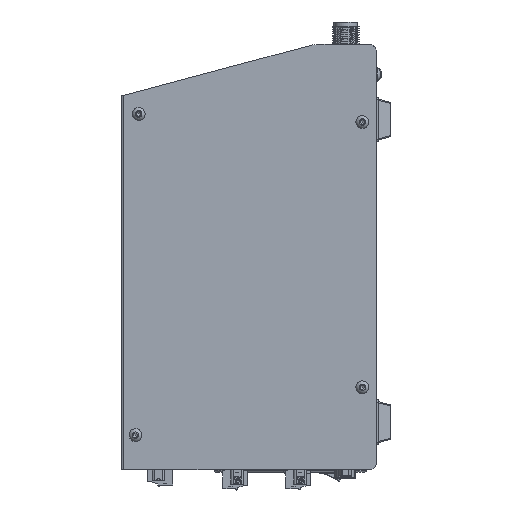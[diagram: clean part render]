
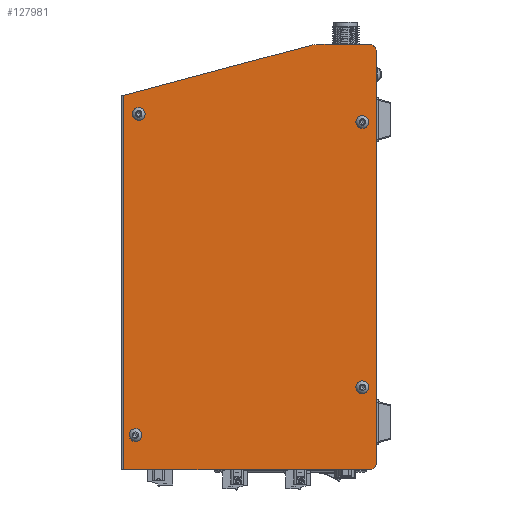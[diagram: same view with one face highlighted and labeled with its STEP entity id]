
A CAD part, left-side view. The second image highlights one B-rep face of the part: STEP entity #127981.
In plain terms, the highlighted planar face has unit normal (-1, 0, 0).
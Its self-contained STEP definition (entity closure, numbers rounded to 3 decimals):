
#91 = DIRECTION ( 'NONE',  ( -1., 0., 0. ) ) ;
#664 = CIRCLE ( 'NONE', #114162, 1.7 ) ;
#10435 = DIRECTION ( 'NONE',  ( 0., 0., 1. ) ) ;
#11234 = FACE_BOUND ( 'NONE', #155830, .T. ) ;
#11524 = AXIS2_PLACEMENT_3D ( 'NONE', #141416, #93171, #151726 ) ;
#17015 = DIRECTION ( 'NONE',  ( 0., 0., 1. ) ) ;
#19757 = AXIS2_PLACEMENT_3D ( 'NONE', #144134, #129948, #60348 ) ;
#20331 = CARTESIAN_POINT ( 'NONE',  ( -101.004, 6.25, -58.99 ) ) ;
#20758 = EDGE_CURVE ( 'NONE', #137418, #137418, #21896, .T. ) ;
#21064 = DIRECTION ( 'NONE',  ( 0., -1., 0. ) ) ;
#21896 = CIRCLE ( 'NONE', #52097, 1.7 ) ;
#22619 = EDGE_LOOP ( 'NONE', ( #38857, #124777, #120261, #48665, #147114, #99353, #107396, #66530 ) ) ;
#23182 = CARTESIAN_POINT ( 'NONE',  ( -101.004, 107.15, -80.3 ) ) ;
#23631 = AXIS2_PLACEMENT_3D ( 'NONE', #143574, #48713, #83421 ) ;
#23831 = FACE_BOUND ( 'NONE', #60976, .T. ) ;
#24030 = CARTESIAN_POINT ( 'NONE',  ( -101.004, 105.728, 64.319 ) ) ;
#24166 = CIRCLE ( 'NONE', #137656, 1.7 ) ;
#24734 = DIRECTION ( 'NONE',  ( -1., 0., 0. ) ) ;
#30023 = CARTESIAN_POINT ( 'NONE',  ( -101.004, 29.054, 93.159 ) ) ;
#33694 = DIRECTION ( 'NONE',  ( -1., 0., 0. ) ) ;
#33700 = VERTEX_POINT ( 'NONE', #151478 ) ;
#35624 = FACE_BOUND ( 'NONE', #115676, .T. ) ;
#36241 = CARTESIAN_POINT ( 'NONE',  ( -101.004, 0., -92.7 ) ) ;
#38615 = EDGE_CURVE ( 'NONE', #62945, #62945, #664, .T. ) ;
#38857 = ORIENTED_EDGE ( 'NONE', *, *, #124998, .T. ) ;
#39706 = VERTEX_POINT ( 'NONE', #153242 ) ;
#40756 = EDGE_CURVE ( 'NONE', #103306, #76920, #76827, .T. ) ;
#45871 = DIRECTION ( 'NONE',  ( 1., 0., 0. ) ) ;
#47003 = VECTOR ( 'NONE', #17015, 1000. ) ;
#48185 = FACE_OUTER_BOUND ( 'NONE', #22619, .T. ) ;
#48513 = VERTEX_POINT ( 'NONE', #36241 ) ;
#48665 = ORIENTED_EDGE ( 'NONE', *, *, #118730, .T. ) ;
#48713 = DIRECTION ( 'NONE',  ( -1., 0., 0. ) ) ;
#52097 = AXIS2_PLACEMENT_3D ( 'NONE', #147905, #24734, #84584 ) ;
#57500 = DIRECTION ( 'NONE',  ( 0., 1., 0. ) ) ;
#60348 = DIRECTION ( 'NONE',  ( 0., 1., 0. ) ) ;
#60976 = EDGE_LOOP ( 'NONE', ( #152070 ) ) ;
#62945 = VERTEX_POINT ( 'NONE', #137237 ) ;
#63596 = EDGE_CURVE ( 'NONE', #80533, #89663, #103782, .T. ) ;
#63754 = EDGE_CURVE ( 'NONE', #39706, #89663, #114534, .T. ) ;
#63869 = CIRCLE ( 'NONE', #23631, 10. ) ;
#66530 = ORIENTED_EDGE ( 'NONE', *, *, #105658, .T. ) ;
#67739 = CARTESIAN_POINT ( 'NONE',  ( -101.004, 112.404, -95.7 ) ) ;
#69859 = EDGE_CURVE ( 'NONE', #91057, #39706, #63869, .T. ) ;
#72609 = CIRCLE ( 'NONE', #19757, 3. ) ;
#72619 = CARTESIAN_POINT ( 'NONE',  ( -101.004, 112.5, -95.7 ) ) ;
#76827 = CIRCLE ( 'NONE', #11524, 3. ) ;
#76920 = VERTEX_POINT ( 'NONE', #121864 ) ;
#80202 = EDGE_LOOP ( 'NONE', ( #81679 ) ) ;
#80533 = VERTEX_POINT ( 'NONE', #67739 ) ;
#81679 = ORIENTED_EDGE ( 'NONE', *, *, #128814, .F. ) ;
#82274 = VECTOR ( 'NONE', #21064, 1000. ) ;
#83421 = DIRECTION ( 'NONE',  ( 0., 0., -1. ) ) ;
#84584 = DIRECTION ( 'NONE',  ( 0., 0., 1. ) ) ;
#85254 = CARTESIAN_POINT ( 'NONE',  ( -101.004, 112.404, -95.7 ) ) ;
#86569 = LINE ( 'NONE', #138731, #82274 ) ;
#87613 = CARTESIAN_POINT ( 'NONE',  ( -101.004, 6.25, 60.689 ) ) ;
#89663 = VERTEX_POINT ( 'NONE', #113578 ) ;
#90628 = ORIENTED_EDGE ( 'NONE', *, *, #38615, .F. ) ;
#91057 = VERTEX_POINT ( 'NONE', #100281 ) ;
#93171 = DIRECTION ( 'NONE',  ( -1., 0., 0. ) ) ;
#93918 = EDGE_CURVE ( 'NONE', #118804, #118804, #24166, .T. ) ;
#96092 = CIRCLE ( 'NONE', #121390, 1.7 ) ;
#99353 = ORIENTED_EDGE ( 'NONE', *, *, #63754, .T. ) ;
#100281 = CARTESIAN_POINT ( 'NONE',  ( -101.004, 26.466, 93.5 ) ) ;
#102565 = LINE ( 'NONE', #150819, #121607 ) ;
#103306 = VERTEX_POINT ( 'NONE', #154736 ) ;
#103782 = LINE ( 'NONE', #85254, #125546 ) ;
#104942 = DIRECTION ( 'NONE',  ( 0., 0.966, -0.259 ) ) ;
#105658 = EDGE_CURVE ( 'NONE', #80533, #119832, #86569, .T. ) ;
#107396 = ORIENTED_EDGE ( 'NONE', *, *, #63596, .F. ) ;
#108239 = CARTESIAN_POINT ( 'NONE',  ( -101.004, 105.728, 62.619 ) ) ;
#108376 = DIRECTION ( 'NONE',  ( 0., 0., 1. ) ) ;
#109034 = PLANE ( 'NONE',  #118465 ) ;
#111728 = LINE ( 'NONE', #125168, #47003 ) ;
#113578 = CARTESIAN_POINT ( 'NONE',  ( -101.004, 112.404, 70.826 ) ) ;
#114162 = AXIS2_PLACEMENT_3D ( 'NONE', #20331, #33694, #127740 ) ;
#114293 = CARTESIAN_POINT ( 'NONE',  ( -101.004, 3., -95.7 ) ) ;
#114534 = LINE ( 'NONE', #30023, #125667 ) ;
#115676 = EDGE_LOOP ( 'NONE', ( #125026 ) ) ;
#118465 = AXIS2_PLACEMENT_3D ( 'NONE', #72619, #45871, #120925 ) ;
#118730 = EDGE_CURVE ( 'NONE', #76920, #91057, #102565, .T. ) ;
#118804 = VERTEX_POINT ( 'NONE', #24030 ) ;
#119386 = DIRECTION ( 'NONE',  ( 0., 0., 1. ) ) ;
#119832 = VERTEX_POINT ( 'NONE', #114293 ) ;
#120261 = ORIENTED_EDGE ( 'NONE', *, *, #40756, .T. ) ;
#120925 = DIRECTION ( 'NONE',  ( 0., 0., -1. ) ) ;
#121390 = AXIS2_PLACEMENT_3D ( 'NONE', #23182, #132119, #108376 ) ;
#121607 = VECTOR ( 'NONE', #57500, 1000. ) ;
#121864 = CARTESIAN_POINT ( 'NONE',  ( -101.004, 3., 93.5 ) ) ;
#124777 = ORIENTED_EDGE ( 'NONE', *, *, #151754, .T. ) ;
#124998 = EDGE_CURVE ( 'NONE', #119832, #48513, #72609, .T. ) ;
#125026 = ORIENTED_EDGE ( 'NONE', *, *, #93918, .F. ) ;
#125168 = CARTESIAN_POINT ( 'NONE',  ( -101.004, 0., -95.7 ) ) ;
#125546 = VECTOR ( 'NONE', #119386, 1000. ) ;
#125667 = VECTOR ( 'NONE', #104942, 1000. ) ;
#127740 = DIRECTION ( 'NONE',  ( 0., 0., 1. ) ) ;
#127981 = ADVANCED_FACE ( 'NONE', ( #11234, #23831, #35624, #144636, #48185 ), #109034, .F. ) ;
#128814 = EDGE_CURVE ( 'NONE', #33700, #33700, #96092, .T. ) ;
#129948 = DIRECTION ( 'NONE',  ( -1., 0., 0. ) ) ;
#132119 = DIRECTION ( 'NONE',  ( -1., 0., 0. ) ) ;
#137237 = CARTESIAN_POINT ( 'NONE',  ( -101.004, 6.25, -57.29 ) ) ;
#137418 = VERTEX_POINT ( 'NONE', #87613 ) ;
#137656 = AXIS2_PLACEMENT_3D ( 'NONE', #108239, #91, #10435 ) ;
#138731 = CARTESIAN_POINT ( 'NONE',  ( -101.004, 112.5, -95.7 ) ) ;
#141416 = CARTESIAN_POINT ( 'NONE',  ( -101.004, 3., 90.5 ) ) ;
#143574 = CARTESIAN_POINT ( 'NONE',  ( -101.004, 26.466, 83.5 ) ) ;
#144134 = CARTESIAN_POINT ( 'NONE',  ( -101.004, 3., -92.7 ) ) ;
#144636 = FACE_BOUND ( 'NONE', #80202, .T. ) ;
#147114 = ORIENTED_EDGE ( 'NONE', *, *, #69859, .T. ) ;
#147905 = CARTESIAN_POINT ( 'NONE',  ( -101.004, 6.25, 58.989 ) ) ;
#150819 = CARTESIAN_POINT ( 'NONE',  ( -101.004, -3., 93.5 ) ) ;
#151478 = CARTESIAN_POINT ( 'NONE',  ( -101.004, 107.15, -78.6 ) ) ;
#151726 = DIRECTION ( 'NONE',  ( 0., 1., 0. ) ) ;
#151754 = EDGE_CURVE ( 'NONE', #48513, #103306, #111728, .T. ) ;
#152070 = ORIENTED_EDGE ( 'NONE', *, *, #20758, .F. ) ;
#153242 = CARTESIAN_POINT ( 'NONE',  ( -101.004, 29.054, 93.159 ) ) ;
#154736 = CARTESIAN_POINT ( 'NONE',  ( -101.004, 0., 90.5 ) ) ;
#155830 = EDGE_LOOP ( 'NONE', ( #90628 ) ) ;
